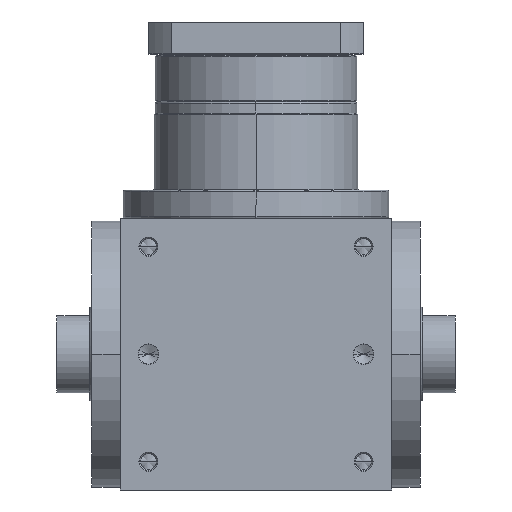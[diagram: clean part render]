
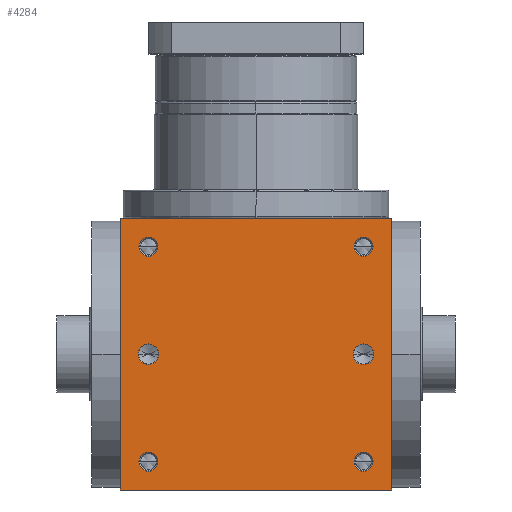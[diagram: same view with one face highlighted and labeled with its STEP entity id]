
A CAD part, front view. The second image highlights one B-rep face of the part: STEP entity #4284.
In plain terms, the highlighted planar face has unit normal (0, -1, 0).
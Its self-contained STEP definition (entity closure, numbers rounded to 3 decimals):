
#5=DIRECTION('',(1.,0.,0.));
#6=VECTOR('',#5,240.);
#7=CARTESIAN_POINT('',(-120.,-120.,-120.));
#8=LINE('',#7,#6);
#155=DIRECTION('',(0.,0.,1.));
#156=VECTOR('',#155,240.);
#157=CARTESIAN_POINT('',(120.,-120.,-120.));
#158=LINE('',#157,#156);
#209=DIRECTION('',(0.,0.,1.));
#210=VECTOR('',#209,240.);
#211=CARTESIAN_POINT('',(-120.,-120.,-120.));
#212=LINE('',#211,#210);
#213=CARTESIAN_POINT('',(95.,-120.,95.));
#214=DIRECTION('',(0.,1.,0.));
#215=DIRECTION('',(-1.,0.,0.));
#216=AXIS2_PLACEMENT_3D('',#213,#214,#215);
#218=CARTESIAN_POINT('',(95.,-120.,95.));
#219=DIRECTION('',(0.,1.,0.));
#220=DIRECTION('',(1.,0.,0.));
#221=AXIS2_PLACEMENT_3D('',#218,#219,#220);
#223=CARTESIAN_POINT('',(-95.,-120.,95.));
#224=DIRECTION('',(0.,1.,0.));
#225=DIRECTION('',(-1.,0.,0.));
#226=AXIS2_PLACEMENT_3D('',#223,#224,#225);
#228=CARTESIAN_POINT('',(-95.,-120.,95.));
#229=DIRECTION('',(0.,1.,0.));
#230=DIRECTION('',(1.,0.,0.));
#231=AXIS2_PLACEMENT_3D('',#228,#229,#230);
#233=CARTESIAN_POINT('',(95.,-120.,-95.));
#234=DIRECTION('',(0.,1.,0.));
#235=DIRECTION('',(-1.,0.,0.));
#236=AXIS2_PLACEMENT_3D('',#233,#234,#235);
#238=CARTESIAN_POINT('',(95.,-120.,-95.));
#239=DIRECTION('',(0.,1.,0.));
#240=DIRECTION('',(1.,0.,0.));
#241=AXIS2_PLACEMENT_3D('',#238,#239,#240);
#243=CARTESIAN_POINT('',(-95.,-120.,-95.));
#244=DIRECTION('',(0.,1.,0.));
#245=DIRECTION('',(-1.,0.,0.));
#246=AXIS2_PLACEMENT_3D('',#243,#244,#245);
#248=CARTESIAN_POINT('',(-95.,-120.,-95.));
#249=DIRECTION('',(0.,1.,0.));
#250=DIRECTION('',(1.,0.,0.));
#251=AXIS2_PLACEMENT_3D('',#248,#249,#250);
#253=CARTESIAN_POINT('',(-95.,-120.,0.));
#254=DIRECTION('',(0.,1.,0.));
#255=DIRECTION('',(1.,0.,0.));
#256=AXIS2_PLACEMENT_3D('',#253,#254,#255);
#258=CARTESIAN_POINT('',(-95.,-120.,0.));
#259=DIRECTION('',(0.,1.,0.));
#260=DIRECTION('',(-1.,0.,0.));
#261=AXIS2_PLACEMENT_3D('',#258,#259,#260);
#263=CARTESIAN_POINT('',(95.,-120.,0.));
#264=DIRECTION('',(0.,1.,0.));
#265=DIRECTION('',(1.,0.,0.));
#266=AXIS2_PLACEMENT_3D('',#263,#264,#265);
#268=CARTESIAN_POINT('',(95.,-120.,0.));
#269=DIRECTION('',(0.,1.,0.));
#270=DIRECTION('',(-1.,0.,0.));
#271=AXIS2_PLACEMENT_3D('',#268,#269,#270);
#285=DIRECTION('',(1.,0.,0.));
#286=VECTOR('',#285,240.);
#287=CARTESIAN_POINT('',(-120.,-120.,120.));
#288=LINE('',#287,#286);
#3450=CARTESIAN_POINT('',(-120.,-120.,-120.));
#3452=VERTEX_POINT('',#3450);
#3453=CARTESIAN_POINT('',(120.,-120.,-120.));
#3454=VERTEX_POINT('',#3453);
#3458=CARTESIAN_POINT('',(-120.,-120.,120.));
#3460=VERTEX_POINT('',#3458);
#3461=CARTESIAN_POINT('',(120.,-120.,120.));
#3462=VERTEX_POINT('',#3461);
#3617=CARTESIAN_POINT('',(86.6,-120.,95.));
#3618=CARTESIAN_POINT('',(103.4,-120.,95.));
#3619=VERTEX_POINT('',#3617);
#3620=VERTEX_POINT('',#3618);
#3625=CARTESIAN_POINT('',(-103.4,-120.,95.));
#3626=CARTESIAN_POINT('',(-86.6,-120.,95.));
#3627=VERTEX_POINT('',#3625);
#3628=VERTEX_POINT('',#3626);
#3633=CARTESIAN_POINT('',(86.6,-120.,-95.));
#3634=CARTESIAN_POINT('',(103.4,-120.,-95.));
#3635=VERTEX_POINT('',#3633);
#3636=VERTEX_POINT('',#3634);
#3641=CARTESIAN_POINT('',(-103.4,-120.,-95.));
#3642=CARTESIAN_POINT('',(-86.6,-120.,-95.));
#3643=VERTEX_POINT('',#3641);
#3644=VERTEX_POINT('',#3642);
#3965=CARTESIAN_POINT('',(-85.95,-120.,
0.));
#3966=CARTESIAN_POINT('',(-104.05,-120.,
0.));
#3967=VERTEX_POINT('',#3965);
#3968=VERTEX_POINT('',#3966);
#3973=CARTESIAN_POINT('',(104.05,-120.,0.));
#3974=CARTESIAN_POINT('',(85.95,-120.,0.));
#3975=VERTEX_POINT('',#3973);
#3976=VERTEX_POINT('',#3974);
#4236=CARTESIAN_POINT('',(-120.,-120.,-120.));
#4237=DIRECTION('',(0.,-1.,0.));
#4238=DIRECTION('',(1.,0.,0.));
#4239=AXIS2_PLACEMENT_3D('',#4236,#4237,#4238);
#4240=PLANE('',#4239);
#4241=ORIENTED_EDGE('',*,*,#4076,.F.);
#4242=ORIENTED_EDGE('',*,*,#4119,.T.);
#4244=ORIENTED_EDGE('',*,*,#4243,.T.);
#4245=ORIENTED_EDGE('',*,*,#4198,.F.);
#4246=EDGE_LOOP('',(#4241,#4242,#4244,#4245));
#4247=FACE_OUTER_BOUND('',#4246,.F.);
#4249=ORIENTED_EDGE('',*,*,#4248,.F.);
#4251=ORIENTED_EDGE('',*,*,#4250,.F.);
#4252=EDGE_LOOP('',(#4249,#4251));
#4253=FACE_BOUND('',#4252,.F.);
#4255=ORIENTED_EDGE('',*,*,#4254,.F.);
#4257=ORIENTED_EDGE('',*,*,#4256,.F.);
#4258=EDGE_LOOP('',(#4255,#4257));
#4259=FACE_BOUND('',#4258,.F.);
#4261=ORIENTED_EDGE('',*,*,#4260,.F.);
#4263=ORIENTED_EDGE('',*,*,#4262,.F.);
#4264=EDGE_LOOP('',(#4261,#4263));
#4265=FACE_BOUND('',#4264,.F.);
#4267=ORIENTED_EDGE('',*,*,#4266,.F.);
#4269=ORIENTED_EDGE('',*,*,#4268,.F.);
#4270=EDGE_LOOP('',(#4267,#4269));
#4271=FACE_BOUND('',#4270,.F.);
#4273=ORIENTED_EDGE('',*,*,#4272,.F.);
#4275=ORIENTED_EDGE('',*,*,#4274,.F.);
#4276=EDGE_LOOP('',(#4273,#4275));
#4277=FACE_BOUND('',#4276,.F.);
#4279=ORIENTED_EDGE('',*,*,#4278,.F.);
#4281=ORIENTED_EDGE('',*,*,#4280,.F.);
#4282=EDGE_LOOP('',(#4279,#4281));
#4283=FACE_BOUND('',#4282,.F.);
#4284=ADVANCED_FACE('',(#4247,#4253,#4259,#4265,#4271,#4277,#4283),#4240,.T.);
#217=CIRCLE('',#216,8.4);
#222=CIRCLE('',#221,8.4);
#227=CIRCLE('',#226,8.4);
#232=CIRCLE('',#231,8.4);
#237=CIRCLE('',#236,8.4);
#242=CIRCLE('',#241,8.4);
#247=CIRCLE('',#246,8.4);
#252=CIRCLE('',#251,8.4);
#257=CIRCLE('',#256,9.05);
#262=CIRCLE('',#261,9.05);
#267=CIRCLE('',#266,9.05);
#272=CIRCLE('',#271,9.05);
#4076=EDGE_CURVE('',#3452,#3454,#8,.T.);
#4119=EDGE_CURVE('',#3452,#3460,#212,.T.);
#4198=EDGE_CURVE('',#3454,#3462,#158,.T.);
#4243=EDGE_CURVE('',#3460,#3462,#288,.T.);
#4248=EDGE_CURVE('',#3619,#3620,#217,.T.);
#4250=EDGE_CURVE('',#3620,#3619,#222,.T.);
#4254=EDGE_CURVE('',#3627,#3628,#227,.T.);
#4256=EDGE_CURVE('',#3628,#3627,#232,.T.);
#4260=EDGE_CURVE('',#3635,#3636,#237,.T.);
#4262=EDGE_CURVE('',#3636,#3635,#242,.T.);
#4266=EDGE_CURVE('',#3643,#3644,#247,.T.);
#4268=EDGE_CURVE('',#3644,#3643,#252,.T.);
#4272=EDGE_CURVE('',#3967,#3968,#257,.T.);
#4274=EDGE_CURVE('',#3968,#3967,#262,.T.);
#4278=EDGE_CURVE('',#3975,#3976,#267,.T.);
#4280=EDGE_CURVE('',#3976,#3975,#272,.T.);
